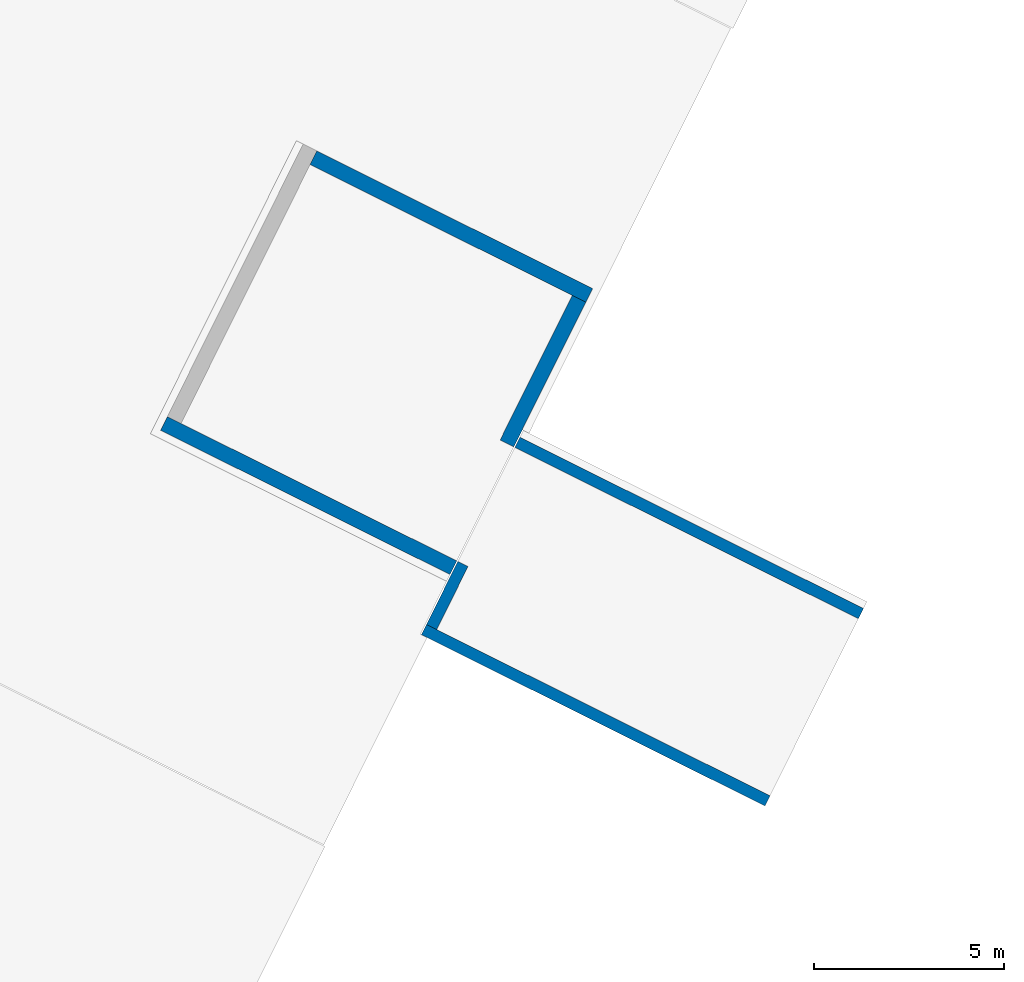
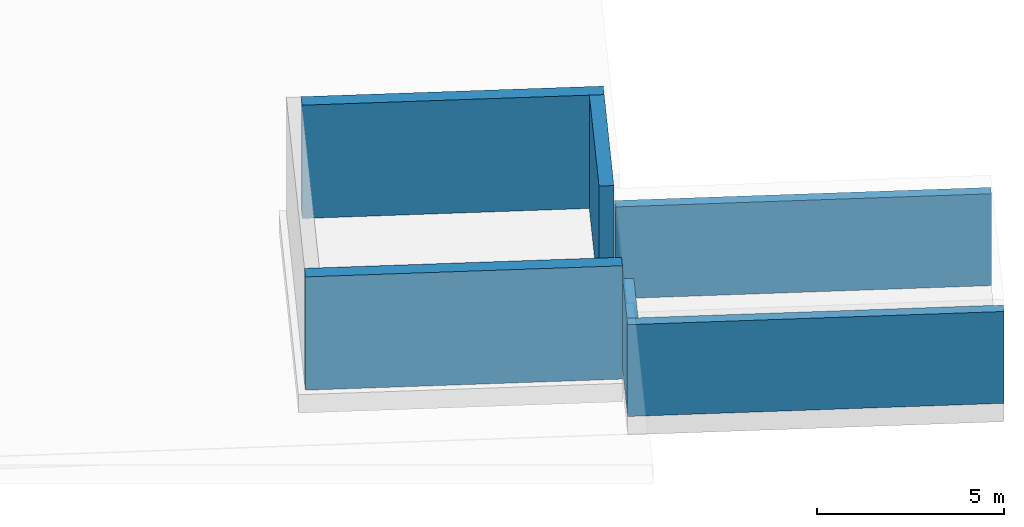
# One storey, part 2 of 2: 6 walls.
"""IFC2X3 building model written with IfcOpenShell, lengths in metres."""

from ifc_helpers import new_model, entity, si_unit, converted_unit, derived_unit, direction, frame, frame_2d, origin, place, context, subcontext, project, spatial, polyline, rectangle, extrude, clip, bounded_halfspace, material, layer, layer_set, layer_usage, type_object, element, save


model = new_model("IFC2X3")

# Units and contexts
model_context = context("Model", 3, precision=1e-05, world=origin(), true_north=direction((0.894925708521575, 0.446215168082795)))
context_of_model = context(None, 3, precision=1e-05, world=origin(), true_north=direction((0.894925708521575, 0.446215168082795)))
body_context = subcontext(model_context, "Body", "Model", "MODEL_VIEW")
ifc_project = project(units=[si_unit("LENGTHUNIT", "METRE"), si_unit("AREAUNIT", "SQUARE_METRE"), si_unit("VOLUMEUNIT", "CUBIC_METRE"), converted_unit("PLANEANGLEUNIT", "DEGREE", entity("IfcRatioMeasure", 0.0174532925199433), si_unit("PLANEANGLEUNIT", "RADIAN"), dimensions=[0, 0, 0, 0, 0, 0, 0]), si_unit("MASSUNIT", "GRAM", prefix="KILO"), si_unit("TIMEUNIT", "SECOND"), si_unit("FREQUENCYUNIT", "HERTZ"), si_unit("THERMODYNAMICTEMPERATUREUNIT", "DEGREE_CELSIUS"), derived_unit("THERMALTRANSMITTANCEUNIT", [(si_unit("MASSUNIT", "GRAM", prefix="KILO"), 1), (si_unit("THERMODYNAMICTEMPERATUREUNIT", "KELVIN"), -1), (si_unit("TIMEUNIT", "SECOND"), -3)]), derived_unit("VOLUMETRICFLOWRATEUNIT", [(si_unit("LENGTHUNIT", "METRE"), 3), (si_unit("TIMEUNIT", "SECOND"), -1)]), si_unit("ELECTRICCURRENTUNIT", "AMPERE"), si_unit("ELECTRICVOLTAGEUNIT", "VOLT"), si_unit("POWERUNIT", "WATT"), si_unit("FORCEUNIT", "NEWTON", prefix="KILO"), si_unit("ILLUMINANCEUNIT", "LUX"), si_unit("LUMINOUSFLUXUNIT", "LUMEN"), si_unit("LUMINOUSINTENSITYUNIT", "CANDELA"), si_unit("PRESSUREUNIT", "PASCAL")], contexts=[model_context, context_of_model])

# Site, building, storey
site_placement = place(None, frame((218.228324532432, 584.720189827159, 0.0), z_axis=(0.0, 0.0, 1.0), x_axis=(0.446215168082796, 0.894925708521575, 0.0)))
site = spatial("IfcSite", under=ifc_project, at=site_placement, Name="Default", CompositionType="ELEMENT")
building_placement = place(site_placement, origin())
building = spatial("IfcBuilding", under=site, at=building_placement, CompositionType="ELEMENT")
storey_placement = place(building_placement, frame((0.0, 0.0, -0.4)))
storey = spatial("IfcBuildingStorey", under=building, at=storey_placement, Name="SF_STR_0100_XY- Fondazioni (-0,40)", CompositionType="ELEMENT", Elevation=-0.4)

# Walls
ifc_material = material(Name="Default - Calcestruzzo")
ifc_layer_1 = layer(ifc_material, 0.3)
ifc_layer_set_1 = layer_set([ifc_layer_1], Name="Muro di base:Setto CA - 30 cm")
ifc_layer_usage_1 = layer_usage(ifc_layer_set_1, "AXIS2", "NEGATIVE", 0.15)
wall_type_1 = type_object("IfcWallType", Name="Muro di base:Setto CA - 30 cm", PredefinedType="STANDARD", material=ifc_layer_set_1)
wall_1_placement = place(storey_placement, frame((-6.60066589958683, -23.5209683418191, -3.7), z_axis=(0.0, 0.0, 1.0), x_axis=(0.0, 1.0, 0.0)))
element("IfcWallStandardCase", 1, at=wall_1_placement, inside=storey, type_object=wall_type_1, material=ifc_layer_usage_1, Name="Muro di base:Setto CA - 30 cm", ObjectType="Muro di base:Setto CA - 30 cm", context=body_context, shape_type="Clipping", body=[
    clip(extrude(rectangle(XDim=10.0900000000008, YDim=0.299999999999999, at=frame_2d((5.0450000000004, 2.4980018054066e-16), x_axis=(-1.0, 0.0))), origin(), (0.0, 0.0, 1.0), 3.0), bounded_halfspace(frame((0.0, -0.150000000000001, 3.0), z_axis=(0.0, 0.0, -1.0), x_axis=(1.0, 0.0, 0.0)), True, frame((0.0, -0.150000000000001, 3.0)), polyline([(0.0, 0.0), (9.79000000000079, 0.0), (10.0900000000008, 0.0), (10.0900000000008, 0.3), (0.0, 0.3), (0.0, 0.0)]))),
])
ifc_layer_usage_2 = layer_usage(ifc_layer_set_1, "AXIS2", "NEGATIVE", 0.15)
wall_2_placement = place(storey_placement, frame((-6.45066589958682, -13.5809683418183, -3.7)))
element("IfcWallStandardCase", 2, at=wall_2_placement, inside=storey, type_object=wall_type_1, material=ifc_layer_usage_2, Name="Muro di base:Setto CA - 30 cm", ObjectType="Muro di base:Setto CA - 30 cm", context=body_context, shape_type="Clipping", body=[
    clip(extrude(rectangle(XDim=1.84999026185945, YDim=0.300000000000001, at=frame_2d((0.924995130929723, 0.0), x_axis=(-1.0, 0.0))), origin(), (0.0, 0.0, 1.0), 3.0), bounded_halfspace(frame((0.0, -0.149999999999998, 3.0), z_axis=(0.0, 0.0, -1.0), x_axis=(0.0, 1.0, 0.0)), True, frame((0.0, -0.149999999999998, 3.0)), polyline([(0.0, 0.0), (1.84999026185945, 0.0), (1.84999026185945, 0.299999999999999), (0.0, 0.299999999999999), (0.0, 0.0)]))),
])
ifc_layer_usage_3 = layer_usage(ifc_layer_set_1, "AXIS2", "NEGATIVE", 0.15)
wall_3_placement = place(storey_placement, frame((-1.10066587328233, -13.4309683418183, -3.7), z_axis=(0.0, 0.0, 1.0), x_axis=(0.0, -1.0, 0.0)))
element("IfcWallStandardCase", 3, at=wall_3_placement, inside=storey, type_object=wall_type_1, material=ifc_layer_usage_3, Name="Muro di base:Setto CA - 30 cm", ObjectType="Muro di base:Setto CA - 30 cm", context=body_context, shape_type="Clipping", body=[
    clip(extrude(rectangle(XDim=10.0900000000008, YDim=0.3, at=frame_2d((5.0450000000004, 0.0), x_axis=(-1.0, 0.0))), origin(), (0.0, 0.0, 1.0), 3.0), bounded_halfspace(frame((0.0, -0.15, 3.0), z_axis=(0.0, 0.0, -1.0), x_axis=(-1.0, 0.0, 0.0)), True, frame((0.0, -0.15, 3.0)), polyline([(0.0, 0.0), (10.0900000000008, 0.0), (10.0900000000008, 0.3), (0.0, 0.3), (0.0, 0.0)]))),
])
ifc_layer_2 = layer(ifc_material, 0.4)
ifc_layer_set_2 = layer_set([ifc_layer_2], Name="Muro di base:Setto CA - 40 cm")
ifc_layer_usage_4 = layer_usage(ifc_layer_set_2, "AXIS2", "NEGATIVE", 0.2)
wall_type_2 = type_object("IfcWallType", Name="Muro di base:Setto CA - 40 cm", PredefinedType="STANDARD", material=ifc_layer_set_2)
wall_4_placement = place(storey_placement, frame((-4.80067563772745, -13.4009679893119, -3.7), z_axis=(0.0, 0.0, 1.0), x_axis=(0.0, 1.0, 0.0)))
element("IfcWallStandardCase", 4, at=wall_4_placement, inside=storey, type_object=wall_type_2, material=ifc_layer_usage_4, Name="Muro di base:Setto CA - 40 cm", ObjectType="Muro di base:Setto CA - 40 cm", context=body_context, shape_type="SweptSolid", body=[
    extrude(rectangle(XDim=8.49992890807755, YDim=0.399999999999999, at=frame_2d((4.24996445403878, -2.22044604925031e-16), x_axis=(-1.0, 0.0))), origin(), (0.0, 0.0, 1.0), 3.7),
])
ifc_layer_usage_5 = layer_usage(ifc_layer_set_2, "AXIS2", "NEGATIVE", 0.2)
wall_5_placement = place(storey_placement, frame((3.19933023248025, -5.30103908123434, -3.7), z_axis=(0.0, 0.0, 1.0), x_axis=(0.0, -1.0, 0.0)))
element("IfcWallStandardCase", 5, at=wall_5_placement, inside=storey, type_object=wall_type_2, material=ifc_layer_usage_5, Name="Muro di base:Setto CA - 40 cm", ObjectType="Muro di base:Setto CA - 40 cm", context=body_context, shape_type="SweptSolid", body=[
    extrude(rectangle(XDim=8.09992890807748, YDim=0.4, at=frame_2d((4.04996445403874, 5.55111512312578e-17), x_axis=(-1.0, 0.0))), origin(), (0.0, 0.0, 1.0), 3.7),
])
ifc_layer_usage_6 = layer_usage(ifc_layer_set_2, "AXIS2", "NEGATIVE", 0.2)
wall_6_placement = place(storey_placement, frame((2.99933023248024, -13.2009679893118, -3.7), z_axis=(0.0, 0.0, 1.0), x_axis=(-1.0, 0.0, 0.0)))
element("IfcWallStandardCase", 6, at=wall_6_placement, inside=storey, type_object=wall_type_2, material=ifc_layer_usage_6, Name="Muro di base:Setto CA - 40 cm", ObjectType="Muro di base:Setto CA - 40 cm", context=body_context, shape_type="SweptSolid", body=[
    extrude(rectangle(XDim=4.24999610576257, YDim=0.4, at=frame_2d((2.12499805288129, 0.0), x_axis=(-1.0, 0.0))), origin(), (0.0, 0.0, 1.0), 3.7),
])

save(model, "model.ifc")
